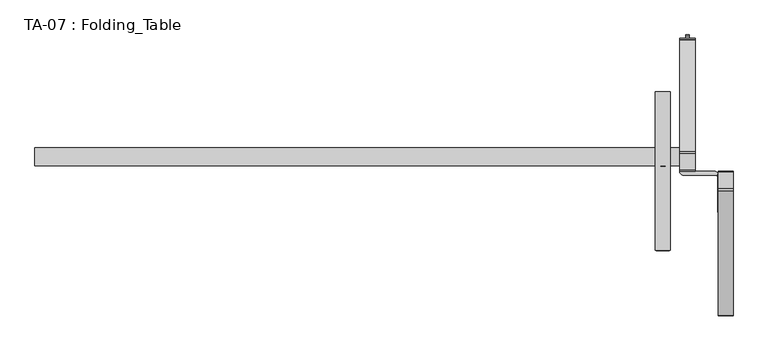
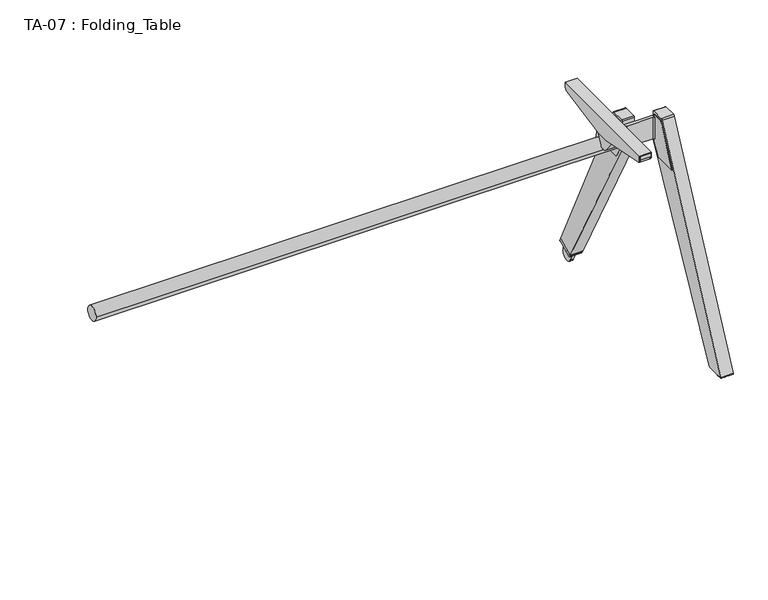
"""IFC4 building model written with IfcOpenShell, lengths in millimetres: furniture geometry, TA-07 : Folding_Table."""

import ifcopenshell
import ifcopenshell.guid

model = None  # the IFC model being written
_history = None  # IfcOwnerHistory: only IFC2X3 demands one
_inside = {}  # id of a spatial element -> (the spatial element, [elements in it])
_under = {}  # id of a project, library or spatial element -> (it, [spatial elements below it])
_declared = {}  # id of a project -> (the project, [libraries it declares])
_typed = {}  # id of a type object -> (the type object, [elements of that type])
_made_of = {}  # id of a material, layer set ... -> (it, [elements and type objects made of it])


def new_model(schema):
    """Start an empty IFC model of exactly this schema.

    Asked for "IFC4X3", IfcOpenShell would pick the latest addendum, in which some entities
    have other attributes; the version numbers below select the first issue.
    IFC2X3 requires an IfcOwnerHistory on every rooted entity: one is made here for all.
    """
    global model, _history
    if schema == "IFC4X3":
        model = ifcopenshell.file(schema_version=(4, 3, 0, 0))
    else:
        model = ifcopenshell.file(schema=schema)
    _inside.clear()
    _under.clear()
    _declared.clear()
    _typed.clear()
    _made_of.clear()
    _history = None
    if model.schema == "IFC2X3":
        org = make("IfcOrganization", Name="unknown")
        user = make(
            "IfcPersonAndOrganization",
            ThePerson=make("IfcPerson", FamilyName="unknown"),
            TheOrganization=org,
        )
        app = make(
            "IfcApplication",
            ApplicationDeveloper=org,
            Version="unknown",
            ApplicationFullName="unknown",
            ApplicationIdentifier="unknown",
        )
        _history = make(
            "IfcOwnerHistory",
            OwningUser=user,
            OwningApplication=app,
            ChangeAction="ADDED",
            CreationDate=0,
        )
    return model


def make(cls, **values):
    """One entity of the class cls with the attributes given. An attribute that is None is left unset."""
    return model.create_entity(
        cls, **{name: value for name, value in values.items() if value is not None}
    )


def rooted(cls, **values):
    """An entity with a GlobalId (a new one), such as an element, a storey or a relation."""
    return make(cls, GlobalId=ifcopenshell.guid.new(), OwnerHistory=_history, **values)


def si_unit(unit_type, name, prefix=None):
    """IfcSIUnit, for example si_unit("LENGTHUNIT", "METRE", prefix="MILLI")."""
    return make("IfcSIUnit", UnitType=unit_type, Prefix=prefix, Name=name)


def assignment(units):
    """IfcUnitAssignment: the units of a project."""
    return None if units is None else make("IfcUnitAssignment", Units=units)


def point(xyz):
    """IfcCartesianPoint."""
    return None if xyz is None else make("IfcCartesianPoint", Coordinates=xyz)


def direction(xyz):
    """IfcDirection."""
    return None if xyz is None else make("IfcDirection", DirectionRatios=xyz)


def frame(location, z_axis=None, x_axis=None):
    """IfcAxis2Placement3D, a coordinate frame: its origin and axes. An axis left out is left unset."""
    return make(
        "IfcAxis2Placement3D",
        Location=point(location),
        Axis=direction(z_axis),
        RefDirection=direction(x_axis),
    )


def frame_2d(location, x_axis=None):
    """IfcAxis2Placement2D, a coordinate frame in the plane: its origin and x axis."""
    return make(
        "IfcAxis2Placement2D", Location=point(location), RefDirection=direction(x_axis)
    )


def origin():
    """The frame at (0, 0, 0) with its axes left unset."""
    return frame((0.0, 0.0, 0.0))


def place(relative_to, where):
    """IfcLocalPlacement: puts the frame where relative to a parent placement (None: the world)."""
    return make(
        "IfcLocalPlacement", PlacementRelTo=relative_to, RelativePlacement=where
    )


def context(
    kind, dimensions, precision=None, world=None, true_north=None, identifier=None
):
    """IfcGeometricRepresentationContext, for example the 3D "Model" context."""
    return make(
        "IfcGeometricRepresentationContext",
        ContextIdentifier=identifier,
        ContextType=kind,
        CoordinateSpaceDimension=dimensions,
        Precision=precision,
        WorldCoordinateSystem=world,
        TrueNorth=true_north,
    )


def project(units=None, contexts=None):
    """IfcProject with its units and contexts."""
    return rooted(
        "IfcProject",
        Name="project",
        RepresentationContexts=contexts,
        UnitsInContext=assignment(units),
    )


def spatial(cls, under=None, at=None, **own):
    """A site, building, storey or space (cls), placed at a placement, below another one or the project."""
    s = rooted(cls, ObjectPlacement=at, **own)
    if under is not None:
        _under.setdefault(under.id(), (under, []))[1].append(s)
    return s


def polyline(points):
    """IfcPolyline through the points."""
    return make("IfcPolyline", Points=[point(p) for p in points])


def circle_curve(where, radius):
    """IfcCircle in the frame where."""
    return make("IfcCircle", Position=where, Radius=radius)


def ellipse_curve(where, semi_axis1, semi_axis2):
    """IfcEllipse in the frame where."""
    return make(
        "IfcEllipse", Position=where, SemiAxis1=semi_axis1, SemiAxis2=semi_axis2
    )


def trimmed(basis, trim1, trim2, sense, master):
    """IfcTrimmedCurve: the piece of a basis curve between two trims."""
    return make(
        "IfcTrimmedCurve",
        BasisCurve=basis,
        Trim1=trim1,
        Trim2=trim2,
        SenseAgreement=sense,
        MasterRepresentation=master,
    )


def segment(curve, same_sense, transition):
    """IfcCompositeCurveSegment."""
    return make(
        "IfcCompositeCurveSegment",
        Transition=transition,
        SameSense=same_sense,
        ParentCurve=curve,
    )


def composite_curve(segments, self_intersect=None):
    """IfcCompositeCurve: segments joined end to end."""
    return make("IfcCompositeCurve", Segments=segments, SelfIntersect=self_intersect)


def outline(outer, holes=None, kind="AREA"):
    """IfcArbitraryClosedProfileDef: a profile drawn as a closed curve; with holes, ...WithVoids."""
    if holes is None:
        return make("IfcArbitraryClosedProfileDef", ProfileType=kind, OuterCurve=outer)
    return make(
        "IfcArbitraryProfileDefWithVoids",
        ProfileType=kind,
        OuterCurve=outer,
        InnerCurves=holes,
    )


def extrude(swept, where, along, depth):
    """IfcExtrudedAreaSolid: the profile swept, set in the frame where, extruded along a direction by depth."""
    return make(
        "IfcExtrudedAreaSolid",
        SweptArea=swept,
        Position=where,
        ExtrudedDirection=direction(along),
        Depth=depth,
    )


def shape(context_of_items, identifier, shape_type, items):
    """IfcShapeRepresentation: the items that make up one representation, for example the "Body"."""
    return make(
        "IfcShapeRepresentation",
        ContextOfItems=context_of_items,
        RepresentationIdentifier=identifier,
        RepresentationType=shape_type,
        Items=items,
    )


def source(mapping_origin, context_of_items, identifier, shape_type, items):
    """IfcRepresentationMap: a shape defined once, which mapped items show again and again."""
    return make(
        "IfcRepresentationMap",
        MappingOrigin=mapping_origin,
        MappedRepresentation=shape(context_of_items, identifier, shape_type, items),
    )


def transform(
    local_origin,
    x_axis=None,
    y_axis=None,
    z_axis=None,
    scale=None,
    scale2=None,
    scale3=None,
    uniform=True,
):
    """IfcCartesianTransformationOperator3D, or its non-uniform kind. x_axis, y_axis, z_axis: its Axis1, 2, 3."""
    if uniform:
        return make(
            "IfcCartesianTransformationOperator3D",
            Axis1=direction(x_axis),
            Axis2=direction(y_axis),
            LocalOrigin=point(local_origin),
            Scale=scale,
            Axis3=direction(z_axis),
        )
    return make(
        "IfcCartesianTransformationOperator3DnonUniform",
        Axis1=direction(x_axis),
        Axis2=direction(y_axis),
        LocalOrigin=point(local_origin),
        Scale=scale,
        Axis3=direction(z_axis),
        Scale2=scale2,
        Scale3=scale3,
    )


def mapped(mapping_source, mapping_target):
    """IfcMappedItem: shows the shape of a source again, moved by a transform."""
    return make(
        "IfcMappedItem", MappingSource=mapping_source, MappingTarget=mapping_target
    )


def made_of(thing, what):
    """Note that an element or type object is made of a material, layer set ...; save() writes the relation."""
    if what is not None:
        _made_of.setdefault(what.id(), (what, []))[1].append(thing)
    return thing


def element(
    cls,
    number,
    at=None,
    inside=None,
    cuts=None,
    type_object=None,
    material=None,
    context=None,
    identifier="Body",
    shape_type=None,
    held_by="IfcProductDefinitionShape",
    body=None,
    shapes=None,
    **own,
):
    """One element of the class cls, such as IfcWall. Its Tag is "e" and its number.

    at: its placement. inside: the storey or other place that contains it. cuts: it is an
    opening in that element (IfcRelVoidsElement). A single representation is given by context,
    identifier, shape_type and body (its items); several are given by shapes. held_by: the class
    of the entity that holds the representations. save() writes the other relations.
    """
    e = rooted(cls, Tag="e%d" % number, ObjectPlacement=at, **own)
    if body is not None:
        shapes = [shape(context, identifier, shape_type, body)]
    if shapes is not None:
        e.Representation = make(held_by, Representations=shapes)
    if inside is not None:
        _inside.setdefault(inside.id(), (inside, []))[1].append(e)
    if cuts is not None:
        rooted(
            "IfcRelVoidsElement", RelatingBuildingElement=cuts, RelatedOpeningElement=e
        )
    if type_object is not None:
        _typed.setdefault(type_object.id(), (type_object, []))[1].append(e)
    return made_of(e, material)


def aggregate(whole, parts):
    """IfcRelAggregates: a whole, such as a stair, and the parts it consists of."""
    return rooted("IfcRelAggregates", RelatingObject=whole, RelatedObjects=parts)


def save(model, path):
    """Write the relations noted so far, then the file.

    IfcRelAggregates (storeys below a building ...), IfcRelContainedInSpatialStructure (elements
    in a storey), IfcRelDefinesByType, IfcRelAssociatesMaterial and IfcRelDeclares: one each for
    every whole, place, type object, material and project.
    """
    for whole, parts in _under.values():
        aggregate(whole, parts)
    for where, things in _inside.values():
        rooted(
            "IfcRelContainedInSpatialStructure",
            RelatedElements=things,
            RelatingStructure=where,
        )
    for kind, things in _typed.values():
        rooted("IfcRelDefinesByType", RelatedObjects=things, RelatingType=kind)
    for what, things in _made_of.values():
        rooted("IfcRelAssociatesMaterial", RelatedObjects=things, RelatingMaterial=what)
    for by, libraries in _declared.values():
        rooted("IfcRelDeclares", RelatingContext=by, RelatedDefinitions=libraries)
    model.write(path)


def plane_surface(at):
    """IfcPlane: the flat surface through the origin of the frame at, square to its z axis."""
    return make("IfcPlane", Position=at)


def cylinder_surface(at, radius):
    """IfcCylindricalSurface: all points at the distance radius from the z axis of the frame at."""
    return make("IfcCylindricalSurface", Position=at, Radius=radius)


def revolved_surface(curve, axis_point, axis_direction):
    """IfcSurfaceOfRevolution: the curve turned about the line through axis_point along axis_direction."""
    return make(
        "IfcSurfaceOfRevolution",
        SweptCurve=make("IfcArbitraryOpenProfileDef", ProfileType="CURVE", Curve=curve),
        AxisPosition=make("IfcAxis1Placement", Location=point(axis_point), Axis=direction(axis_direction)),
    )


def extruded_surface(curve, direction_of_extrusion, depth):
    """IfcSurfaceOfLinearExtrusion: the curve pushed along a direction by depth."""
    return make(
        "IfcSurfaceOfLinearExtrusion",
        SweptCurve=make("IfcArbitraryOpenProfileDef", ProfileType="CURVE", Curve=curve),
        ExtrudedDirection=direction(direction_of_extrusion),
        Depth=depth,
    )


def advanced_brep(points, edges, surfaces, faces):
    """IfcAdvancedBrep: a solid bounded by faces that lie on surfaces and meet in shared edges.

    An edge is (start, end): straight between two places in points (the first is 0);
    or (start, end, curve); or (start, end, curve, False) where it runs against its curve.
    A face is (place in surfaces, loops), or (place, loops, False) where it looks against
    its surface's normal. A loop lists edges by number (the first is 1), with a minus sign
    where the edge is run from its end to its start. The first loop is the outer one.
    """
    corners = [point(p) for p in points]
    vertices = [make("IfcVertexPoint", VertexGeometry=c) for c in corners]
    made = []
    for start, end, *more in edges:
        made.append(
            make(
                "IfcEdgeCurve",
                EdgeStart=vertices[start],
                EdgeEnd=vertices[end],
                EdgeGeometry=more[0] if more else make("IfcPolyline", Points=[corners[start], corners[end]]),
                SameSense=more[1] if len(more) > 1 else True,
            )
        )
    hull = []
    for where, loops, *sense in faces:
        bounds = []
        for j, loop in enumerate(loops):
            ring = [make("IfcOrientedEdge", EdgeElement=made[abs(k) - 1], Orientation=k > 0) for k in loop]
            bounds.append(
                make(
                    "IfcFaceOuterBound" if j == 0 else "IfcFaceBound",
                    Bound=make("IfcEdgeLoop", EdgeList=ring),
                    Orientation=True,
                )
            )
        hull.append(make("IfcAdvancedFace", Bounds=bounds, FaceSurface=surfaces[where], SameSense=sense[0] if sense else True))
    return make("IfcAdvancedBrep", Outer=make("IfcClosedShell", CfsFaces=hull))


def ta_07_folding_table_5d66a2e4(model_context):
    return source(origin(), model_context, "Body", "SolidModel", [
        advanced_brep(
        [(754.0971375, 600.0, 692.5959015), (754.0971375, 600.0, 680.1652766), (752.0973206, 600.0, 680.1652766), (752.0973206, 600.0, 694.5959473), (788.9970398, 600.0, 694.5959473), (788.9970398, 600.0, 680.1652766), (786.9972229, 600.0, 680.1652766), (786.9972229, 600.0, 692.5959015), (786.9972229, 200.0, 692.5959015), (786.9972229, 200.0, 680.164896), (788.9970398, 200.0, 680.164896), (788.9970398, 200.0, 694.5959473), (752.0973206, 200.0, 694.5959473), (752.0973206, 200.0, 680.164896), (754.0971375, 200.0, 680.164896), (754.0971375, 200.0, 692.5959015), (752.0973206, 420.0, 636.0191727), (752.0973206, 380.0011244, 636.0191345), (752.0973206, 208.0417176, 670.3585139), (752.0973206, 591.9583135, 670.3589007), (754.0971375, 420.0, 636.0191727), (754.0971375, 591.9583135, 670.3589007), (754.0971375, 208.0417176, 670.3585139), (754.0971375, 380.0011244, 636.0191345), (788.9970398, 420.0, 636.0191727), (788.9970398, 591.9583135, 670.3589007), (788.9970398, 208.0417176, 670.3585139), (788.9970398, 380.0011244, 636.0191345), (786.9972229, 420.0, 636.0191727), (786.9972229, 380.0011244, 636.0191345), (786.9972229, 208.0417176, 670.3585139), (786.9972229, 591.9583135, 670.3589007)],
        [
            (0, 1),
            (1, 2),
            (2, 3),
            (3, 4),
            (4, 5),
            (5, 6),
            (6, 7),
            (7, 0),
            (8, 9),
            (9, 10),
            (10, 11),
            (11, 12),
            (12, 13),
            (13, 14),
            (14, 15),
            (15, 8),
            (11, 4),
            (3, 12),
            (7, 8),
            (15, 0),
            (16, 17),
            (17, 18),
            (18, 13, circle_curve(frame((752.0973206, 210.0, 680.164896), z_axis=(-1.0, 0.0, 0.0), x_axis=(0.0, -1.0, 0.0)), 10.0)),
            (2, 19, circle_curve(frame((752.0973206, 590.0, 680.1652766), z_axis=(-1.0, 0.0, 0.0), x_axis=(0.0, -1.0, 0.0)), 10.0)),
            (19, 16),
            (20, 21),
            (21, 1, circle_curve(frame((754.0971375, 590.0, 680.1652766), z_axis=(1.0, 0.0, 0.0), x_axis=(0.0, -1.0, 0.0)), 10.0)),
            (14, 22, circle_curve(frame((754.0971375, 210.0, 680.164896), z_axis=(1.0, 0.0, 0.0), x_axis=(0.0, -1.0, 0.0)), 10.0)),
            (22, 23),
            (23, 20),
            (16, 20),
            (23, 17),
            (22, 18),
            (21, 19),
            (24, 25),
            (25, 5, circle_curve(frame((788.9970398, 590.0, 680.1652766), z_axis=(1.0, 0.0, 0.0), x_axis=(0.0, -1.0, 0.0)), 10.0)),
            (10, 26, circle_curve(frame((788.9970398, 210.0, 680.164896), z_axis=(1.0, 0.0, 0.0), x_axis=(0.0, -1.0, 0.0)), 10.0)),
            (26, 27),
            (27, 24),
            (28, 29),
            (29, 30),
            (30, 9, circle_curve(frame((786.9972229, 210.0, 680.164896), z_axis=(-1.0, 0.0, 0.0), x_axis=(0.0, -1.0, 0.0)), 10.0)),
            (6, 31, circle_curve(frame((786.9972229, 590.0, 680.1652766), z_axis=(-1.0, 0.0, 0.0), x_axis=(0.0, -1.0, 0.0)), 10.0)),
            (31, 28),
            (27, 29),
            (28, 24),
            (26, 30),
            (25, 31),
        ],
        [
            plane_surface(frame((754.0971375, 600.0, 694.5959473), z_axis=(0.0, 1.0, 0.0), x_axis=(-1.0, 0.0, 0.0))),
            plane_surface(frame((754.0971375, 200.0, 694.5959473), z_axis=(0.0, -1.0, 0.0), x_axis=(1.0, 0.0, 0.0))),
            plane_surface(frame((786.9972229, 600.0, 694.5959473), z_axis=(0.0, 0.0, 1.0), x_axis=(0.0, -1.0, 0.0))),
            plane_surface(frame((754.0971375, 600.0, 692.5959015), z_axis=(0.0, 0.0, -1.0), x_axis=(0.0, -1.0, 0.0))),
            plane_surface(frame((752.0973206, 592.1557617, 670.3983307), z_axis=(-1.0000000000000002, 0.0, 0.0), x_axis=(0.0, 0.9806375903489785, 0.1958313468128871))),
            plane_surface(frame((754.0971375, 592.1557617, 670.3983307), z_axis=(1.0000000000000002, 0.0, 0.0), x_axis=(0.0, -0.9806375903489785, -0.1958313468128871))),
            plane_surface(frame((752.0973206, 380.0011244, 636.0191345), z_axis=(0.0, 9.536743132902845e-07, -0.9999999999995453), x_axis=(1.0, 0.0, 0.0))),
            plane_surface(frame((752.0973206, 208.0417176, 670.3585139), z_axis=(0.0, -0.1958282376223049, -0.9806382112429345), x_axis=(1.0, 0.0, 0.0))),
            cylinder_surface(frame((754.0971375, 210.0, 680.164896), z_axis=(-1.0, 0.0, 0.0), x_axis=(0.0, -1.0, 0.0)), 10.0),
            cylinder_surface(frame((754.0971375, 590.0, 680.1652766), z_axis=(-1.0, 0.0, 0.0), x_axis=(0.0, -1.0, 0.0)), 10.0),
            plane_surface(frame((752.0973206, 420.0, 636.0191727), z_axis=(0.0, 0.1958313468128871, -0.9806375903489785), x_axis=(1.0, 0.0, 0.0))),
            plane_surface(frame((788.9970398, 380.0, 636.0191345), z_axis=(1.0, 0.0, 0.0), x_axis=(0.0, -0.9999999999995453, -9.536743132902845e-07))),
            plane_surface(frame((786.9972229, 380.0, 636.0191345), z_axis=(-1.0, 0.0, 0.0), x_axis=(0.0, 0.9999999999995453, 9.536743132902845e-07))),
            plane_surface(frame((788.9970398, 420.0, 636.0191727), z_axis=(0.0, 9.536743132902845e-07, -0.9999999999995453), x_axis=(-1.0, 0.0, 0.0))),
            plane_surface(frame((788.9970398, 380.0011244, 636.0191345), z_axis=(0.0, -0.1958282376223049, -0.9806382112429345), x_axis=(-1.0, 0.0, 0.0))),
            cylinder_surface(frame((786.9972229, 210.0, 680.164896), z_axis=(1.0, 0.0, 0.0), x_axis=(0.0, -1.0, 0.0)), 10.0),
            cylinder_surface(frame((786.9972229, 590.0, 680.1652766), z_axis=(1.0, 0.0, 0.0), x_axis=(0.0, -1.0, 0.0)), 10.0),
            plane_surface(frame((788.9970398, 591.9583135, 670.3589007), z_axis=(0.0, 0.1958313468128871, -0.9806375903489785), x_axis=(-1.0, 0.0, 0.0))),
        ],
        [
            (0, [[1, 2, 3, 4, 5, 6, 7, 8]]),
            (1, [[9, 10, 11, 12, 13, 14, 15, 16]]),
            (2, [[17, -4, 18, -12]]),
            (3, [[19, -16, 20, -8]]),
            (4, [[21, 22, 23, -13, -18, -3, 24, 25]]),
            (5, [[26, 27, -1, -20, -15, 28, 29, 30]]),
            (6, [[31, -30, 32, -21]]),
            (7, [[-32, -29, 33, -22]]),
            (8, [[-33, -28, -14, -23]]),
            (9, [[-2, -27, 34, -24]]),
            (10, [[-34, -26, -31, -25]]),
            (11, [[35, 36, -5, -17, -11, 37, 38, 39]]),
            (12, [[40, 41, 42, -9, -19, -7, 43, 44]]),
            (13, [[45, -40, 46, -39]]),
            (14, [[47, -41, -45, -38]]),
            (15, [[-10, -42, -47, -37]]),
            (16, [[48, -43, -6, -36]]),
            (17, [[-46, -44, -48, -35]]),
        ],
    ),
        extrude(outline(composite_curve([segment(polyline([(200.0, 692.5959015), (200.0, 680.164896)]), True, "CONTINUOUS"), segment(trimmed(circle_curve(frame_2d((210.0, 680.164896)), 10.0), [point((200.0, 680.164896))], [point((208.0417176, 670.3585139))], True, "CARTESIAN"), True, "CONTINUOUS"), segment(polyline([(208.0417176, 670.3585139), (271.2817383, 657.729818), (271.2817383, 656.7108248), (207.7511244, 669.4004388)]), True, "CONTINUOUS"), segment(trimmed(circle_curve(frame_2d((209.8817981, 680.0676671)), 10.8779378), [point((207.7511244, 669.4004388))], [point((199.0038608, 680.0645277))], False, "CARTESIAN"), True, "CONTINUOUS"), segment(polyline([(199.0038608, 680.0645277), (199.0002441, 692.5959015), (200.0, 692.5959015)]), True, "CONTINUOUS")], self_intersect=False)), frame((754.0971375, 0.0, 0.0), z_axis=(1.0, 0.0, 0.0), x_axis=(0.0, 1.0, 0.0)), (0.0, 0.0, 1.0), 32.9000854),
        extrude(outline(polyline([(452.5708008, 615.4007339), (457.8649902, 594.0221024), (456.6023328, 593.2604712), (440.4321023, 605.80503), (431.9549873, 605.80503), (415.8666992, 593.2231903), (414.5422363, 594.0221024), (419.8364258, 615.4007339), (410.1049805, 660.1964569), (411.9262695, 692.5959015), (460.480957, 692.5959015), (462.3022461, 660.1964569), (452.5708008, 615.4007339)])), frame((765.2958679, 0.0, 0.0), z_axis=(1.0, 0.0, 0.0), x_axis=(0.0, 1.0, 0.0)), (0.0, 0.0, 1.0), 11.3989258),
        extrude(outline(composite_curve([segment(trimmed(circle_curve(frame_2d((402.2230265, 605.4761762)), 8.8086575), [point((410.0929386, 601.5192922))], [point((402.2230265, 596.6675186))], False, "CARTESIAN"), True, "CONTINUOUS"), segment(polyline([(402.2230265, 596.6675186), (394.7775739, 596.6675186)]), True, "CONTINUOUS"), segment(trimmed(circle_curve(frame_2d((394.7775739, 607.8106111)), 11.1430925), [point((394.7775739, 596.6675186))], [point((386.0443302, 600.8897033))], False, "CARTESIAN"), True, "CONTINUOUS"), segment(polyline([(386.0443302, 600.8897033), (313.3691406, 692.5959015), (455.8850098, 692.5959015), (410.0929386, 601.5192922)]), True, "CONTINUOUS")], self_intersect=False)), frame((754.0971375, 0.0, 0.0), z_axis=(1.0, 0.0, 0.0), x_axis=(0.0, 1.0, 0.0)), (0.0, 0.0, 1.0), 32.9000854),
        advanced_brep(
        [(909.9983215, 388.8262127, 661.4302063), (909.9983215, 361.1798947, 661.4302063), (909.9983215, 355.1239136, 657.6416082), (909.9983215, 296.4370087, 536.9958113), (909.9983215, 298.68737, 533.3986664), (909.9983215, 365.5569557, 533.3987045), (909.9983215, 371.4930343, 536.9463768), (909.9983215, 390.7921278, 572.8320514), (909.9983215, 392.7819824, 580.7332459), (909.9983215, 392.7819824, 657.4744366), (908.7800598, 388.8262127, 661.4302063), (908.7800598, 392.7819824, 657.4744366), (908.7800598, 392.7819824, 652.8482819), (908.7800598, 385.991464, 652.8482819), (908.7800598, 385.991464, 582.8483963), (908.7800598, 392.7819824, 582.8483963), (908.7800598, 392.7819824, 580.7332459), (908.7800598, 390.7921278, 572.8320514), (908.7800598, 371.4930343, 536.9463768), (908.7800598, 365.5569557, 533.3987045), (908.7800598, 298.68737, 533.3986664), (908.7800598, 296.4370087, 536.9958113), (908.7800598, 355.1239136, 657.6416082), (908.7800598, 361.1798947, 661.4302063), (909.6035583, 392.7819824, 582.8483963), (909.6035583, 392.7819824, 652.8482819), (822.780304, 390.0, 652.8482819), (904.7715239, 390.0, 652.8482819), (899.9983215, 400.0, 652.8482819), (814.0065002, 400.0, 652.8482819), (814.0065002, 407.2180176, 652.8482819), (812.780304, 407.2180176, 652.8482819), (812.780304, 400.0, 652.8482819), (822.780304, 390.0, 582.8483963), (812.780304, 400.0, 582.8483963), (812.780304, 407.2180176, 582.8483963), (814.0065002, 407.2180176, 582.8483963), (814.0065002, 400.0, 582.8483963), (899.9983215, 400.0, 582.8483963), (904.7715239, 390.0, 582.8483963), (812.780304, 407.2180176, 657.4744366), (812.780304, 411.1737873, 661.4302063), (812.780304, 438.8201053, 661.4302063), (812.780304, 444.8760864, 657.6416082), (812.780304, 503.5629913, 536.9958113), (812.780304, 501.31263, 533.3986664), (812.780304, 434.4430443, 533.3987045), (812.780304, 428.5069657, 536.9463768), (812.780304, 409.2078722, 572.8320514), (812.780304, 407.2180176, 580.7332459), (814.0065002, 407.2180176, 580.7332459), (814.0065002, 409.2078722, 572.8320514), (814.0065002, 428.5069657, 536.9463768), (814.0065002, 434.4430443, 533.3987045), (814.0065002, 501.31263, 533.3986664), (814.0065002, 503.5629913, 536.9958113), (814.0065002, 444.8760864, 657.6416082), (814.0065002, 438.8201053, 661.4302063), (814.0065002, 411.1737873, 661.4302063), (814.0065002, 407.2180176, 657.4744366)],
        [
            (0, 1),
            (1, 2, circle_curve(frame((909.9983215, 361.1798947, 654.6957385), z_axis=(1.0, 0.0, 0.0), x_axis=(0.0, -1.0, 0.0)), 6.7344678)),
            (2, 3),
            (3, 4, circle_curve(frame((909.9983215, 298.6873685, 535.901147), z_axis=(1.0, 0.0, 0.0), x_axis=(0.0, -1.0, 0.0)), 2.5024806)),
            (4, 5),
            (5, 6, circle_curve(frame((909.9983215, 365.5569519, 540.1387651), z_axis=(1.0, 0.0, 0.0), x_axis=(0.0, -1.0, 0.0)), 6.7400606)),
            (6, 7),
            (7, 8, circle_curve(frame((909.9983215, 376.1002619, 580.7332459), z_axis=(1.0, 0.0, 0.0), x_axis=(0.0, -1.0, 0.0)), 16.6817205)),
            (8, 9),
            (9, 0, circle_curve(frame((909.9983215, 388.8262127, 657.4744366), z_axis=(1.0, 0.0, 0.0), x_axis=(0.0, -1.0, 0.0)), 3.9557697)),
            (10, 11, circle_curve(frame((908.7800598, 388.8262127, 657.4744366), z_axis=(-1.0, 0.0, 0.0), x_axis=(0.0, -1.0, 0.0)), 3.9557697)),
            (11, 12),
            (12, 13),
            (13, 14),
            (14, 15),
            (15, 16),
            (16, 17, circle_curve(frame((908.7800598, 376.1002619, 580.7332459), z_axis=(-1.0, 0.0, 0.0), x_axis=(0.0, -1.0, 0.0)), 16.6817205)),
            (17, 18),
            (18, 19, circle_curve(frame((908.7800598, 365.5569519, 540.1387651), z_axis=(-1.0, 0.0, 0.0), x_axis=(0.0, -1.0, 0.0)), 6.7400606)),
            (19, 20),
            (20, 21, circle_curve(frame((908.7800598, 298.6873685, 535.901147), z_axis=(-1.0, 0.0, 0.0), x_axis=(0.0, -1.0, 0.0)), 2.5024806)),
            (21, 22),
            (22, 23, circle_curve(frame((908.7800598, 361.1798947, 654.6957385), z_axis=(-1.0, 0.0, 0.0), x_axis=(0.0, -1.0, 0.0)), 6.7344678)),
            (23, 10),
            (9, 11),
            (10, 0),
            (8, 16),
            (15, 24),
            (24, 25),
            (25, 12),
            (7, 17),
            (6, 18),
            (5, 19),
            (4, 20),
            (3, 21),
            (2, 22),
            (1, 23),
            (26, 27),
            (27, 13, circle_curve(frame((904.7715239, 385.991464, 652.8482819), z_axis=(0.0, 0.0, -1.0), x_axis=(1.0, 0.0, 0.0)), 4.008536)),
            (25, 28, circle_curve(frame((899.9983215, 390.0, 652.8482819), z_axis=(0.0, 0.0, 1.0), x_axis=(1.0, 0.0, 0.0)), 10.0)),
            (28, 29),
            (29, 30),
            (30, 31),
            (31, 32),
            (32, 26, circle_curve(frame((822.780304, 400.0, 652.8482819), z_axis=(0.0, 0.0, 1.0), x_axis=(1.0, 0.0, 0.0)), 10.0)),
            (33, 34, circle_curve(frame((822.780304, 400.0, 582.8483963), z_axis=(0.0, 0.0, -1.0), x_axis=(1.0, 0.0, 0.0)), 10.0)),
            (34, 35),
            (35, 36),
            (36, 37),
            (37, 38),
            (38, 24, circle_curve(frame((899.9983215, 390.0, 582.8483963), z_axis=(0.0, 0.0, -1.0), x_axis=(1.0, 0.0, 0.0)), 10.0)),
            (14, 39, circle_curve(frame((904.7715239, 385.991464, 582.8483963), z_axis=(0.0, 0.0, 1.0), x_axis=(1.0, 0.0, 0.0)), 4.008536)),
            (39, 33),
            (32, 34),
            (33, 26),
            (31, 40),
            (40, 41, circle_curve(frame((812.780304, 411.1737873, 657.4744366), z_axis=(-1.0, 0.0, 0.0), x_axis=(0.0, 1.0, 0.0)), 3.9557697)),
            (41, 42),
            (42, 43, circle_curve(frame((812.780304, 438.8201053, 654.6957385), z_axis=(-1.0, 0.0, 0.0), x_axis=(0.0, 1.0, 0.0)), 6.7344678)),
            (43, 44),
            (44, 45, circle_curve(frame((812.780304, 501.3126315, 535.901147), z_axis=(-1.0, 0.0, 0.0), x_axis=(0.0, 1.0, 0.0)), 2.5024806)),
            (45, 46),
            (46, 47, circle_curve(frame((812.780304, 434.4430481, 540.1387651), z_axis=(-1.0, 0.0, 0.0), x_axis=(0.0, 1.0, 0.0)), 6.7400606)),
            (47, 48),
            (48, 49, circle_curve(frame((812.780304, 423.8997381, 580.7332459), z_axis=(-1.0, 0.0, 0.0), x_axis=(0.0, 1.0, 0.0)), 16.6817205)),
            (49, 35),
            (29, 37),
            (36, 50),
            (50, 51, circle_curve(frame((814.0065002, 423.8997381, 580.7332459), z_axis=(1.0, 0.0, 0.0), x_axis=(0.0, 1.0, 0.0)), 16.6817205)),
            (51, 52),
            (52, 53, circle_curve(frame((814.0065002, 434.4430481, 540.1387651), z_axis=(1.0, 0.0, 0.0), x_axis=(0.0, 1.0, 0.0)), 6.7400606)),
            (53, 54),
            (54, 55, circle_curve(frame((814.0065002, 501.3126315, 535.901147), z_axis=(1.0, 0.0, 0.0), x_axis=(0.0, 1.0, 0.0)), 2.5024806)),
            (55, 56),
            (56, 57, circle_curve(frame((814.0065002, 438.8201053, 654.6957385), z_axis=(1.0, 0.0, 0.0), x_axis=(0.0, 1.0, 0.0)), 6.7344678)),
            (57, 58),
            (58, 59, circle_curve(frame((814.0065002, 411.1737873, 657.4744366), z_axis=(1.0, 0.0, 0.0), x_axis=(0.0, 1.0, 0.0)), 3.9557697)),
            (59, 30),
            (28, 38),
            (27, 39),
            (58, 41),
            (40, 59),
            (49, 50),
            (48, 51),
            (47, 52),
            (46, 53),
            (45, 54),
            (44, 55),
            (43, 56),
            (42, 57),
        ],
        [
            plane_surface(frame((909.9983215, 384.870443, 657.4744366), z_axis=(1.0, 0.0, 0.0), x_axis=(0.0, 0.0, 1.0))),
            plane_surface(frame((908.7800598, 384.870443, 657.4744366), z_axis=(-1.0, 0.0, 0.0), x_axis=(0.0, 0.0, -1.0))),
            cylinder_surface(frame((908.7800598, 388.8262127, 657.4744366), z_axis=(1.0, 0.0, 0.0), x_axis=(0.0, -1.0, 0.0)), 3.9557697),
            plane_surface(frame((909.9983215, 392.7819824, 657.4744366), z_axis=(0.0, 1.0, 0.0), x_axis=(-1.0, 0.0, 0.0))),
            cylinder_surface(frame((908.7800598, 376.1002619, 580.7332459), z_axis=(1.0, 0.0, 0.0), x_axis=(0.0, -1.0, 0.0)), 16.6817205),
            plane_surface(frame((909.9983215, 390.7921278, 572.8320514), z_axis=(0.0, 0.8807164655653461, -0.4736438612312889), x_axis=(-1.0, 0.0, 0.0))),
            cylinder_surface(frame((908.7800598, 365.5569519, 540.1387651), z_axis=(1.0, 0.0, 0.0), x_axis=(0.0, -1.0, 0.0)), 6.7400606),
            plane_surface(frame((909.9983215, 365.5569557, 533.3987045), z_axis=(0.0, 5.702242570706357e-07, -0.9999999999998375), x_axis=(-1.0, 0.0, 0.0))),
            cylinder_surface(frame((908.7800598, 298.6873685, 535.901147), z_axis=(1.0, 0.0, 0.0), x_axis=(0.0, -1.0, 0.0)), 2.5024806),
            plane_surface(frame((909.9983215, 296.4370087, 536.9958113), z_axis=(0.0, -0.8992516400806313, 0.4374316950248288), x_axis=(-1.0, 0.0, 0.0))),
            cylinder_surface(frame((908.7800598, 361.1798947, 654.6957385), z_axis=(1.0, 0.0, 0.0), x_axis=(0.0, -1.0, 0.0)), 6.7344678),
            plane_surface(frame((909.9983215, 361.1798947, 661.4302063), z_axis=(0.0, 0.0, 1.0), x_axis=(-1.0, 0.0, 0.0))),
            plane_surface(frame((832.780304, 400.0, 652.8482819), z_axis=(0.0, 0.0, 1.0), x_axis=(0.0, -1.0, 0.0))),
            plane_surface(frame((832.780304, 400.0, 582.8483963), z_axis=(0.0, 0.0, -1.0), x_axis=(0.0, 1.0, 0.0))),
            cylinder_surface(frame((822.780304, 400.0, 582.8483963), z_axis=(0.0, 0.0, 1.0), x_axis=(1.0, 0.0, 0.0)), 10.0),
            plane_surface(frame((812.780304, 400.0, 652.8482819), z_axis=(-1.0, 0.0, 0.0), x_axis=(0.0, 0.0, -1.0))),
            plane_surface(frame((814.0065002, 407.2180176, 652.8482819), z_axis=(1.0, 0.0, 0.0), x_axis=(0.0, 0.0, -1.0))),
            plane_surface(frame((814.0065002, 400.0, 652.8482819), z_axis=(0.0, 1.0, 0.0), x_axis=(0.0, 0.0, -1.0))),
            cylinder_surface(frame((899.9983215, 390.0, 582.8483963), z_axis=(0.0, 0.0, 1.0), x_axis=(1.0, 0.0, 0.0)), 10.0),
            revolved_surface(polyline([(908.7800599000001, 385.991464, 582.8483963), (908.7800599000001, 385.991464, 652.8482819)]), (904.7715239, 385.991464, 582.8483963), (0.0, 0.0, -1.0)),
            plane_surface(frame((904.7715239, 390.0, 652.8482819), z_axis=(0.0, -1.0, 0.0), x_axis=(0.0, 0.0, -1.0))),
            cylinder_surface(frame((812.780304, 411.1737873, 657.4744366), z_axis=(1.0, 0.0, 0.0), x_axis=(0.0, 1.0, 0.0)), 3.9557697),
            plane_surface(frame((813.9985657, 407.2180176, 580.7332459), z_axis=(0.0, -1.0, 0.0), x_axis=(-1.0, 0.0, 0.0))),
            cylinder_surface(frame((812.780304, 423.8997381, 580.7332459), z_axis=(1.0, 0.0, 0.0), x_axis=(0.0, 1.0, 0.0)), 16.6817205),
            plane_surface(frame((813.9985657, 428.5069657, 536.9463768), z_axis=(0.0, -0.8807164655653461, -0.4736438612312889), x_axis=(-1.0, 0.0, 0.0))),
            cylinder_surface(frame((812.780304, 434.4430481, 540.1387651), z_axis=(1.0, 0.0, 0.0), x_axis=(0.0, 1.0, 0.0)), 6.7400606),
            plane_surface(frame((813.9985657, 501.31263, 533.3986664), z_axis=(0.0, -5.702242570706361e-07, -0.9999999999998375), x_axis=(-1.0, 0.0, 0.0))),
            cylinder_surface(frame((812.780304, 501.3126315, 535.901147), z_axis=(1.0, 0.0, 0.0), x_axis=(0.0, 1.0, 0.0)), 2.5024806),
            plane_surface(frame((813.9985657, 444.8760864, 657.6416082), z_axis=(0.0, 0.8992516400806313, 0.4374316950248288), x_axis=(-1.0, 0.0, 0.0))),
            cylinder_surface(frame((812.780304, 438.8201053, 654.6957385), z_axis=(1.0, 0.0, 0.0), x_axis=(0.0, 1.0, 0.0)), 6.7344678),
            plane_surface(frame((813.9985657, 411.1737873, 661.4302063), z_axis=(0.0, 0.0, 1.0), x_axis=(-1.0, 0.0, 0.0))),
        ],
        [
            (0, [[1, 2, 3, 4, 5, 6, 7, 8, 9, 10]]),
            (1, [[11, 12, 13, 14, 15, 16, 17, 18, 19, 20, 21, 22, 23, 24]]),
            (2, [[25, -11, 26, -10]]),
            (3, [[27, -16, 28, 29, 30, -12, -25, -9]]),
            (4, [[31, -17, -27, -8]]),
            (5, [[32, -18, -31, -7]]),
            (6, [[33, -19, -32, -6]]),
            (7, [[34, -20, -33, -5]]),
            (8, [[35, -21, -34, -4]]),
            (9, [[36, -22, -35, -3]]),
            (10, [[37, -23, -36, -2]]),
            (11, [[-26, -24, -37, -1]]),
            (12, [[38, 39, -13, -30, 40, 41, 42, 43, 44, 45]]),
            (13, [[46, 47, 48, 49, 50, 51, -28, -15, 52, 53]]),
            (14, [[54, -46, 55, -45]]),
            (15, [[56, 57, 58, 59, 60, 61, 62, 63, 64, 65, 66, -47, -54, -44]]),
            (16, [[67, -49, 68, 69, 70, 71, 72, 73, 74, 75, 76, 77, 78, -42]]),
            (17, [[79, -50, -67, -41]]),
            (18, [[-40, -29, -51, -79]]),
            (19, [[80, -52, -14, -39]]),
            (20, [[-55, -53, -80, -38]]),
            (21, [[81, -57, 82, -77]]),
            (22, [[-56, -43, -78, -82]]),
            (22, [[-68, -48, -66, 83]]),
            (23, [[-83, -65, 84, -69]]),
            (24, [[-84, -64, 85, -70]]),
            (25, [[-85, -63, 86, -71]]),
            (26, [[-86, -62, 87, -72]]),
            (27, [[-87, -61, 88, -73]]),
            (28, [[-88, -60, 89, -74]]),
            (29, [[-89, -59, 90, -75]]),
            (30, [[-90, -58, -81, -76]]),
        ],
    ),
        extrude(outline(composite_curve([segment(trimmed(circle_curve(frame_2d((436.2036133, 582.8474045)), 22.902832), [point((459.1064453, 582.8474045))], [point((413.3007813, 582.8474045))], False, "CARTESIAN"), True, "CONTINUOUS"), segment(trimmed(circle_curve(frame_2d((436.2036133, 582.8474045)), 22.902832), [point((413.3007813, 582.8474045))], [point((459.1064453, 582.8474045))], False, "CARTESIAN"), True, "CONTINUOUS")], self_intersect=False)), frame((-814.0013123, 0.0, 0.0), z_axis=(1.0, 0.0, 0.0), x_axis=(0.0, 1.0, 0.0)), (0.0, 0.0, 1.0), 1627.9998779),
        extrude(outline(composite_curve([segment(polyline([(732.3899502, 78.2882255), (735.4915767, 71.8566553)]), True, "CONTINUOUS"), segment(trimmed(circle_curve(frame_2d((734.3351562, 71.2989712)), 1.283869), [point((735.4915767, 71.8566553))], [point((734.8756253, 70.1344057))], False, "CARTESIAN"), True, "CONTINUOUS"), segment(polyline([(734.8756253, 70.1344057), (685.8796773, 47.3956317)]), True, "CONTINUOUS"), segment(trimmed(circle_curve(frame_2d((685.1821687, 48.8985752)), 1.6569119), [point((685.8796773, 47.3956317))], [point((683.7228327, 48.1139125))], False, "CARTESIAN"), True, "CONTINUOUS"), segment(polyline([(683.7228327, 48.1139125), (680.4574418, 54.186971), (732.3899502, 78.2882255)]), True, "CONTINUOUS")], self_intersect=False)), frame((813.9985657, 0.0, 0.0), z_axis=(1.0, 0.0, 0.0), x_axis=(0.0, 1.0, 0.0)), (0.0, 0.0, 1.0), 37.9998779),
        advanced_brep(
        [(837.8330994, 741.9613773, 37.5714478), (837.8330994, 728.059082, 67.5213623), (837.8330994, 690.2764968, 49.9848002), (837.8330994, 704.1780804, 20.0337892), (828.1639099, 741.9613773, 37.5714478), (828.1639099, 704.1780804, 20.0337892), (828.1639099, 690.2764968, 49.9848002), (828.1639099, 728.059082, 67.5213623)],
        [
            (0, 1),
            (1, 2),
            (2, 3),
            (3, 0, ellipse_curve(frame((837.8330994, 723.0698751, 28.8023033), z_axis=(1.0, 0.0, 0.0), x_axis=(0.0, 0.9070580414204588, 0.42100559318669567)), 20.8275479, 20.7758644)),
            (4, 5, ellipse_curve(frame((828.1639099, 723.0698751, 28.8023033), z_axis=(-1.0, 0.0, 0.0), x_axis=(0.0, 0.9070580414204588, 0.42100559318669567)), 20.8275479, 20.7758644)),
            (5, 6),
            (6, 7),
            (7, 4),
            (3, 5),
            (4, 0),
            (2, 6),
            (1, 7),
        ],
        [
            plane_surface(frame((837.8330994, 741.9616699, 37.5708175), z_axis=(1.0, 0.0, 0.0), x_axis=(0.0, 0.42100559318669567, -0.9070580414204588))),
            plane_surface(frame((828.1639099, 741.9616699, 37.5708175), z_axis=(-1.0, 0.0, 0.0), x_axis=(0.0, -0.42100559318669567, 0.9070580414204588))),
            extruded_surface(trimmed(ellipse_curve(frame((828.1639099, 723.0698751, 28.8023033), z_axis=(-1.0, 0.0, 0.0), x_axis=(0.0, 0.9070580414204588, 0.42100559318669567)), 20.8275479, 20.7758644), [point((828.1639099, 741.9613773, 37.5714478))], [point((828.1639099, 704.1780804, 20.0337892))], True, "CARTESIAN"), (-9.66918940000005, 0.0, 0.0), 9.66918940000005),
            plane_surface(frame((837.8330994, 704.1780804, 20.0337892), z_axis=(0.0, -0.9070580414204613, -0.42100559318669), x_axis=(-1.0, 0.0, 0.0))),
            plane_surface(frame((837.8330994, 690.2764968, 49.9848002), z_axis=(0.0, -0.4210055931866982, 0.9070580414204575), x_axis=(-1.0, 0.0, 0.0))),
            plane_surface(frame((837.8330994, 728.059082, 67.5213623), z_axis=(0.0, 0.9070439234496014, 0.4210360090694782), x_axis=(-1.0, 0.0, 0.0))),
        ],
        [
            (0, [[1, 2, 3, 4]]),
            (1, [[5, 6, 7, 8]]),
            (2, [[9, -5, 10, -4]]),
            (3, [[11, -6, -9, -3]]),
            (4, [[12, -7, -11, -2]]),
            (5, [[-10, -8, -12, -1]]),
        ],
    ),
        advanced_brep(
        [(928.9982605, 59.3579102, 8.4972829), (914.1130066, 59.3579102, 8.4972829), (943.8835144, 59.3579102, 8.4972829), (917.3508998, 59.3579102, -0.4026309), (928.9982605, 59.3579102, -0.4026309), (940.6456212, 59.3579102, -0.4026309), (914.1130066, 59.3579102, 2.8352622), (943.8835144, 59.3579102, 2.8352622)],
        [
            (0, 1),
            (1, 2, circle_curve(frame((928.9982605, 59.3579102, 8.4972829), z_axis=(0.0, 0.0, 1.0), x_axis=(1.0, 0.0, 0.0)), 14.8852539)),
            (2, 0),
            (2, 1, circle_curve(frame((928.9982605, 59.3579102, 8.4972829), z_axis=(0.0, 0.0, 1.0), x_axis=(1.0, 0.0, 0.0)), 14.8852539)),
            (3, 4),
            (4, 5),
            (5, 3, circle_curve(frame((928.9982605, 59.3579102, -0.4026309), z_axis=(0.0, 0.0, -1.0), x_axis=(1.0, 0.0, 0.0)), 11.6473607)),
            (3, 5, circle_curve(frame((928.9982605, 59.3579102, -0.4026309), z_axis=(0.0, 0.0, -1.0), x_axis=(1.0, 0.0, 0.0)), 11.6473607)),
            (6, 3, circle_curve(frame((917.3508998, 59.3579102, 2.8352622), z_axis=(0.0, -1.0, 0.0), x_axis=(-1.0, 0.0, 0.0)), 3.2378932)),
            (5, 7, circle_curve(frame((940.6456212, 59.3579102, 2.8352622), z_axis=(0.0, -1.0, 0.0), x_axis=(1.0, 0.0, 0.0)), 3.2378932)),
            (7, 6, circle_curve(frame((928.9982605, 59.3579102, 2.8352622), z_axis=(0.0, 0.0, -1.0), x_axis=(1.0, 0.0, 0.0)), 14.8852539)),
            (6, 7, circle_curve(frame((928.9982605, 59.3579102, 2.8352622), z_axis=(0.0, 0.0, -1.0), x_axis=(1.0, 0.0, 0.0)), 14.8852539)),
            (1, 6),
            (7, 2),
        ],
        [
            plane_surface(frame((928.9982605, 59.3579102, 8.4972829), z_axis=(0.0, 0.0, 1.0), x_axis=(1.0, 0.0, 0.0))),
            plane_surface(frame((928.9982605, 59.3579102, -0.4026309), z_axis=(0.0, 0.0, -1.0), x_axis=(1.0, 0.0, 0.0))),
            revolved_surface(trimmed(ellipse_curve(frame((940.6456212, 59.3579102, 2.8352622), z_axis=(0.0, -1.0, 0.0), x_axis=(1.0, 0.0, 0.0)), 3.2378932, 3.2378932), [point((940.6456212, 59.3579102, -0.402631))], [point((943.8835144, 59.3579102, 2.8352622))], True, "CARTESIAN"), (928.9982605, 59.3579102, 2.5970915), (0.0, 0.0, 1.0)),
            cylinder_surface(frame((928.9982605, 59.3579102, 2.5970915), z_axis=(0.0, 0.0, 1.0), x_axis=(1.0, 0.0, 0.0)), 14.8852539),
        ],
        [
            (0, [[1, 2, 3]]),
            (0, [[-3, 4, -1]]),
            (1, [[5, 6, 7]]),
            (1, [[-6, -5, 8]]),
            (2, [[9, -7, 10, 11]]),
            (2, [[-10, -8, -9, 12]]),
            (3, [[13, -11, 14, -2]]),
            (3, [[-14, -12, -13, -4]]),
        ],
    ),
        extrude(outline(composite_curve([segment(polyline([(448.9448302, 666.043462), (731.8239283, 79.4619355)]), True, "CONTINUOUS"), segment(trimmed(circle_curve(frame_2d((730.6675078, 78.9042514)), 1.283869), [point((731.8239283, 79.4619355))], [point((731.2079702, 77.7396827))], False, "CARTESIAN"), True, "CONTINUOUS"), segment(polyline([(731.2079702, 77.7396827), (681.8744713, 54.8445974)]), True, "CONTINUOUS"), segment(trimmed(circle_curve(frame_2d((681.1769714, 56.3475449)), 1.6569119), [point((681.8744713, 54.8445974))], [point((679.7176354, 55.5628822))], False, "CARTESIAN"), True, "CONTINUOUS"), segment(polyline([(679.7176354, 55.5628822), (401.1924346, 573.5712652)]), True, "CONTINUOUS"), segment(trimmed(circle_curve(frame_2d((410.0, 578.3069586)), 10.0), [point((401.1924346, 573.5712652))], [point((400.0, 578.3069586))], False, "CARTESIAN"), True, "CONTINUOUS"), segment(polyline([(400.0, 578.3069586), (400.0, 665.6302809)]), True, "CONTINUOUS"), segment(trimmed(circle_curve(frame_2d((403.017943, 665.6302809)), 3.017943), [point((400.0, 665.6302809))], [point((403.017943, 668.6482239))], False, "CARTESIAN"), True, "CONTINUOUS"), segment(polyline([(403.017943, 668.6482239), (444.7968515, 668.6482239)]), True, "CONTINUOUS"), segment(trimmed(circle_curve(frame_2d((444.7968515, 664.0430982)), 4.6051256), [point((444.7968515, 668.6482239))], [point((448.9448302, 666.043462))], False, "CARTESIAN"), True, "CONTINUOUS")], self_intersect=False)), frame((813.9985657, 0.0, 0.0), z_axis=(1.0, 0.0, 0.0), x_axis=(0.0, 1.0, 0.0)), (0.0, 0.0, 1.0), 37.9998779),
        extrude(outline(composite_curve([segment(trimmed(circle_curve(frame_2d((355.2031485, 664.0430982)), 4.6051256), [point((351.0551698, 666.043462))], [point((355.2031485, 668.6482239))], False, "CARTESIAN"), True, "CONTINUOUS"), segment(polyline([(355.2031485, 668.6482239), (396.982057, 668.6482239)]), True, "CONTINUOUS"), segment(trimmed(circle_curve(frame_2d((396.982057, 665.6302809)), 3.017943), [point((396.982057, 668.6482239))], [point((400.0, 665.6302809))], False, "CARTESIAN"), True, "CONTINUOUS"), segment(polyline([(400.0, 665.6302809), (400.0, 578.3069586)]), True, "CONTINUOUS"), segment(trimmed(circle_curve(frame_2d((390.0, 578.3069586)), 10.0), [point((400.0, 578.3069586))], [point((398.8075654, 573.5712652))], False, "CARTESIAN"), True, "CONTINUOUS"), segment(polyline([(398.8075654, 573.5712652), (96.3518994, 11.0563832)]), True, "CONTINUOUS"), segment(trimmed(circle_curve(frame_2d((92.0703397, 13.3585124)), 4.8612295), [point((96.3518994, 11.0563832))], [point((92.0703429, 8.4972829))], False, "CARTESIAN"), True, "CONTINUOUS"), segment(polyline([(92.0703429, 8.4972829), (36.9167243, 8.4972471)]), True, "CONTINUOUS"), segment(trimmed(circle_curve(frame_2d((36.9167231, 10.3581362)), 1.8608892), [point((36.9167243, 8.4972471))], [point((35.2405628, 11.166465))], False, "CARTESIAN"), True, "CONTINUOUS"), segment(polyline([(35.2405628, 11.166465), (351.0551698, 666.043462)]), True, "CONTINUOUS")], self_intersect=False)), frame((909.9983215, 0.0, 0.0), z_axis=(1.0, 0.0, 0.0), x_axis=(0.0, 1.0, 0.0)), (0.0, 0.0, 1.0), 38.0001831),
    ])


if __name__ == "__main__":
    model = new_model("IFC4")
    model_context = context("Model", 3, world=origin())
    ifc_project = project(units=[si_unit("LENGTHUNIT", "METRE", prefix="MILLI")], contexts=[model_context])
    site = spatial("IfcSite", under=ifc_project)
    building = spatial("IfcBuilding", under=site)
    placement = place(None, origin())
    ta_07_folding_table_shape = ta_07_folding_table_5d66a2e4(model_context)
    element("IfcFurniture", 1, ObjectType="TA-07 : Folding_Table", at=placement, inside=building, context=model_context, shape_type="MappedRepresentation", body=[
        mapped(ta_07_folding_table_shape, transform((0.0, 0.0, 0.0), x_axis=(1.0, 0.0, 0.0), y_axis=(0.0, 1.0, 0.0), z_axis=(0.0, 0.0, 1.0))),
    ])
    save(model, "model.ifc")
